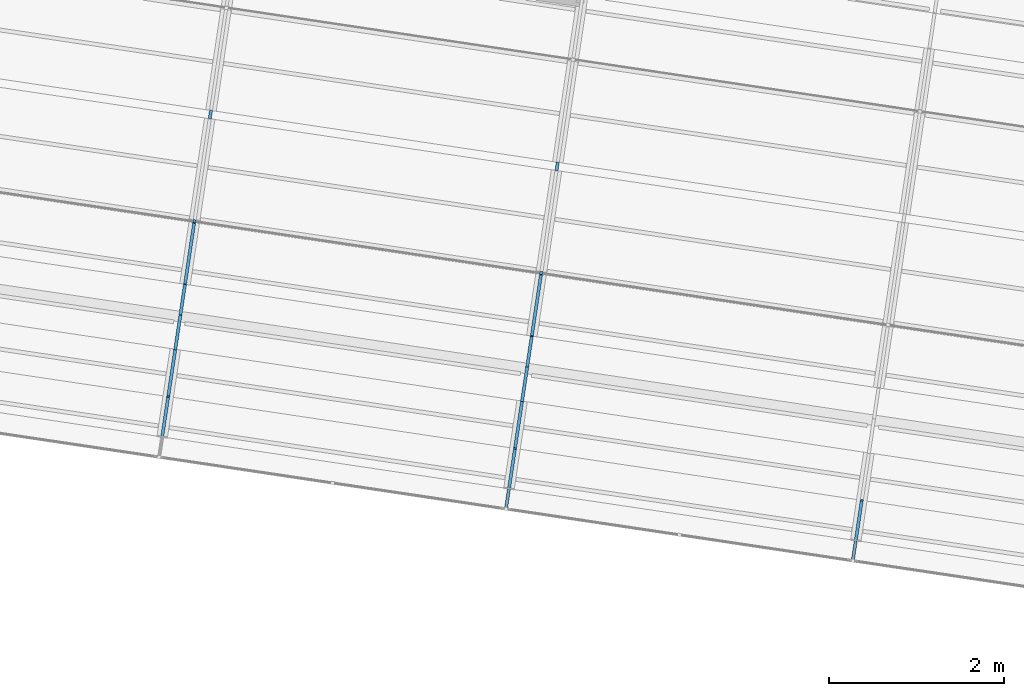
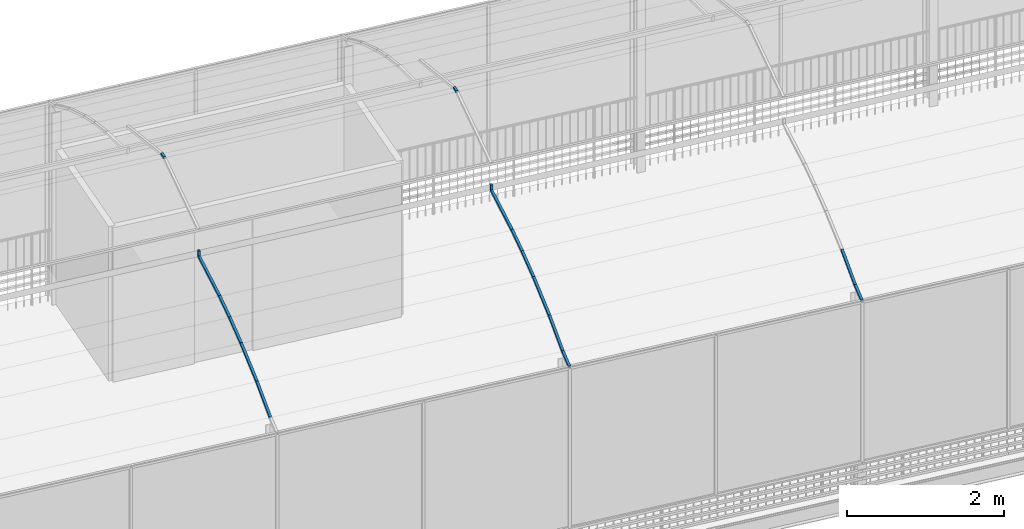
# One storey, part 19 of 34: 17 members, 1 element without a shape of its own.
"""IFC4 building model written with IfcOpenShell, lengths in metres."""

from ifc_helpers import new_model, si_unit, direction, frame, origin_with_axes, place, context, subcontext, project, spatial, rectangle, extrude, material, material_profile, profile_set, profile_usage, type_object, element, aggregate, save


model = new_model("IFC4")

# Units and contexts
model_context = context("Model", 3, precision=1e-05, world=origin_with_axes(), true_north=direction((0.0, 1.0)))
body_context = subcontext(model_context, "Body", "Model", "MODEL_VIEW")
ifc_project = project(units=[si_unit("AREAUNIT", "SQUARE_METRE"), si_unit("VOLUMEUNIT", "CUBIC_METRE"), si_unit("LENGTHUNIT", "METRE")], contexts=[model_context])

# Site, building, storey
site_placement = place(None, origin_with_axes())
site = spatial("IfcSite", under=ifc_project, at=site_placement, Name="Lares · Rua das Mercês · artigo 4771")
building_placement = place(site_placement, frame((15.0, 9.7, 14.65), z_axis=(0.0, 0.0, 1.0), x_axis=(0.989015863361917, -0.147809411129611, 0.0)))
building = spatial("IfcBuilding", under=site, at=building_placement, Name="Casa Sobreposta")
storey_placement = place(building_placement, frame((0.0, 0.0, 3.24), z_axis=(0.0, 0.0, 1.0), x_axis=(1.0, 0.0, 0.0)))
storey = spatial("IfcBuildingStorey", under=building, at=storey_placement, Name="01 · Jardim de inverno", Elevation=17.89)

# Roof, members
ifc_material_1 = material(Name="Vidro / Normalglas", Category="glass")
roof_placement = place(storey_placement, frame((0.0, 0.0, -3.24), z_axis=(0.0, 0.0, 1.0), x_axis=(1.0, 0.0, 0.0)))
roof = element("IfcRoof", 1, at=roof_placement, inside=storey, material=ifc_material_1, Name="Cobertura translúcida da estufa", PredefinedType="BARREL_ROOF")
ifc_material_2 = material(Name="Aço pintado / Stahl lackiert", Category="steel")
ifc_material_profile = material_profile(ifc_material_2, rectangle(XDim=0.035, YDim=0.035))
ifc_profile_set = profile_set([ifc_material_profile], Name="R0.035")
ifc_profile_usage_1 = profile_usage(ifc_profile_set)
member_type = type_object("IfcMemberType", Name="R0.035 / steel", PredefinedType="NOTDEFINED", material=ifc_profile_set)
member_1_placement = place(roof_placement, frame((12.0, -1.5, 6.23430000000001), z_axis=(0.0, 0.932991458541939, 0.35989851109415), x_axis=(1.0, 0.0, 0.0)))
member_1 = element("IfcMember", 2, at=member_1_placement, type_object=member_type, material=ifc_profile_usage_1, Name="Arco estufa 12/0", context=body_context, shape_type="SweptSolid", body=[
    extrude(rectangle(XDim=0.035, YDim=0.035), origin_with_axes(), (0.0, 0.0, 1.0), 0.249032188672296),
])
ifc_profile_usage_2 = profile_usage(ifc_profile_set)
member_2_placement = place(roof_placement, frame((16.0, -1.5, 6.23430000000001), z_axis=(0.0, 0.932991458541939, 0.35989851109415), x_axis=(1.0, 0.0, 0.0)))
member_2 = element("IfcMember", 3, at=member_2_placement, type_object=member_type, material=ifc_profile_usage_2, Name="Arco estufa 16/0", context=body_context, shape_type="SweptSolid", body=[
    extrude(rectangle(XDim=0.035, YDim=0.035), origin_with_axes(), (0.0, 0.0, 1.0), 0.249032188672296),
])
ifc_profile_usage_3 = profile_usage(ifc_profile_set)
member_3_placement = place(roof_placement, frame((8.0, -1.26765509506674, 6.32392631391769), z_axis=(0.0, 0.878851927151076, 0.477094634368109), x_axis=(1.0, 0.0, 0.0)))
member_3 = element("IfcMember", 4, at=member_3_placement, type_object=member_type, material=ifc_profile_usage_3, Name="Arco estufa 8/1", context=body_context, shape_type="SweptSolid", body=[
    extrude(rectangle(XDim=0.035, YDim=0.035), origin_with_axes(), (0.0, 0.0, 1.0), 0.52863528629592),
])
ifc_profile_usage_4 = profile_usage(ifc_profile_set)
member_4_placement = place(roof_placement, frame((12.0, -1.26765509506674, 6.32392631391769), z_axis=(0.0, 0.878851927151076, 0.477094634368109), x_axis=(1.0, 0.0, 0.0)))
member_4 = element("IfcMember", 5, at=member_4_placement, type_object=member_type, material=ifc_profile_usage_4, Name="Arco estufa 12/1", context=body_context, shape_type="SweptSolid", body=[
    extrude(rectangle(XDim=0.035, YDim=0.035), origin_with_axes(), (0.0, 0.0, 1.0), 0.52863528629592),
])
ifc_profile_usage_5 = profile_usage(ifc_profile_set)
member_5_placement = place(roof_placement, frame((16.0, -1.26765509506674, 6.32392631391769), z_axis=(0.0, 0.878851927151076, 0.477094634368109), x_axis=(1.0, 0.0, 0.0)))
member_5 = element("IfcMember", 6, at=member_5_placement, type_object=member_type, material=ifc_profile_usage_5, Name="Arco estufa 16/1", context=body_context, shape_type="SweptSolid", body=[
    extrude(rectangle(XDim=0.035, YDim=0.035), origin_with_axes(), (0.0, 0.0, 1.0), 0.52863528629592),
])
ifc_profile_usage_6 = profile_usage(ifc_profile_set)
member_6_placement = place(roof_placement, frame((8.0, -0.803062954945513, 6.57613537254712), z_axis=(0.0, 0.915885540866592, 0.401439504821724), x_axis=(1.0, 0.0, 0.0)))
member_6 = element("IfcMember", 7, at=member_6_placement, type_object=member_type, material=ifc_profile_usage_6, Name="Arco estufa 8/2", context=body_context, shape_type="SweptSolid", body=[
    extrude(rectangle(XDim=0.035, YDim=0.035), origin_with_axes(), (0.0, 0.0, 1.0), 0.596771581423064),
])
ifc_profile_usage_7 = profile_usage(ifc_profile_set)
member_7_placement = place(roof_placement, frame((12.0, -0.803062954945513, 6.57613537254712), z_axis=(0.0, 0.915885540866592, 0.401439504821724), x_axis=(1.0, 0.0, 0.0)))
member_7 = element("IfcMember", 8, at=member_7_placement, type_object=member_type, material=ifc_profile_usage_7, Name="Arco estufa 12/2", context=body_context, shape_type="SweptSolid", body=[
    extrude(rectangle(XDim=0.035, YDim=0.035), origin_with_axes(), (0.0, 0.0, 1.0), 0.596771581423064),
])
ifc_profile_usage_8 = profile_usage(ifc_profile_set)
member_8_placement = place(roof_placement, frame((8.0, -0.256488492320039, 6.81570306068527), z_axis=(0.0, 0.942820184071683, 0.333301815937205), x_axis=(1.0, 0.0, 0.0)))
member_8 = element("IfcMember", 9, at=member_8_placement, type_object=member_type, material=ifc_profile_usage_8, Name="Arco estufa 8/3", context=body_context, shape_type="SweptSolid", body=[
    extrude(rectangle(XDim=0.035, YDim=0.035), origin_with_axes(), (0.0, 0.0, 1.0), 0.423025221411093),
])
ifc_profile_usage_9 = profile_usage(ifc_profile_set)
member_9_placement = place(roof_placement, frame((12.0, -0.256488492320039, 6.81570306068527), z_axis=(0.0, 0.942820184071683, 0.333301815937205), x_axis=(1.0, 0.0, 0.0)))
member_9 = element("IfcMember", 10, at=member_9_placement, type_object=member_type, material=ifc_profile_usage_9, Name="Arco estufa 12/3", context=body_context, shape_type="SweptSolid", body=[
    extrude(rectangle(XDim=0.035, YDim=0.035), origin_with_axes(), (0.0, 0.0, 1.0), 0.423025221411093),
])
ifc_profile_usage_10 = profile_usage(ifc_profile_set)
member_10_placement = place(roof_placement, frame((8.0, 0.142348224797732, 6.95669813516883), z_axis=(0.0, 0.959692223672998, 0.281053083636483), x_axis=(1.0, 0.0, 0.0)))
member_10 = element("IfcMember", 11, at=member_10_placement, type_object=member_type, material=ifc_profile_usage_10, Name="Arco estufa 8/4", context=body_context, shape_type="SweptSolid", body=[
    extrude(rectangle(XDim=0.035, YDim=0.035), origin_with_axes(), (0.0, 0.0, 1.0), 0.365557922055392),
])
ifc_profile_usage_11 = profile_usage(ifc_profile_set)
member_11_placement = place(roof_placement, frame((12.0, 0.142348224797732, 6.95669813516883), z_axis=(0.0, 0.959692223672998, 0.281053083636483), x_axis=(1.0, 0.0, 0.0)))
member_11 = element("IfcMember", 12, at=member_11_placement, type_object=member_type, material=ifc_profile_usage_11, Name="Arco estufa 12/4", context=body_context, shape_type="SweptSolid", body=[
    extrude(rectangle(XDim=0.035, YDim=0.035), origin_with_axes(), (0.0, 0.0, 1.0), 0.365557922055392),
])
ifc_profile_usage_12 = profile_usage(ifc_profile_set)
member_12_placement = place(roof_placement, frame((8.0, 0.493171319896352, 7.05943931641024), z_axis=(0.0, 0.977995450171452, 0.208626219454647), x_axis=(1.0, 0.0, 0.0)))
member_12 = element("IfcMember", 13, at=member_12_placement, type_object=member_type, material=ifc_profile_usage_12, Name="Arco estufa 8/5", context=body_context, shape_type="SweptSolid", body=[
    extrude(rectangle(XDim=0.035, YDim=0.035), origin_with_axes(), (0.0, 0.0, 1.0), 0.737465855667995),
])
ifc_profile_usage_13 = profile_usage(ifc_profile_set)
member_13_placement = place(roof_placement, frame((12.0, 0.493171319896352, 7.05943931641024), z_axis=(0.0, 0.977995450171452, 0.208626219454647), x_axis=(1.0, 0.0, 0.0)))
member_13 = element("IfcMember", 14, at=member_13_placement, type_object=member_type, material=ifc_profile_usage_13, Name="Arco estufa 12/5", context=body_context, shape_type="SweptSolid", body=[
    extrude(rectangle(XDim=0.035, YDim=0.035), origin_with_axes(), (0.0, 0.0, 1.0), 0.737465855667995),
])
ifc_profile_usage_14 = profile_usage(ifc_profile_set)
member_14_placement = place(roof_placement, frame((8.0, 1.21440957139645, 7.21329402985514), z_axis=(0.0, 0.0686229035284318, 0.997642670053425), x_axis=(1.0, 0.0, 0.0)))
member_14 = element("IfcMember", 15, at=member_14_placement, type_object=member_type, material=ifc_profile_usage_14, Name="Arco estufa 8/6", context=body_context, shape_type="SweptSolid", body=[
    extrude(rectangle(XDim=0.035, YDim=0.035), origin_with_axes(), (0.0, 0.0, 1.0), 0.0875893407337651),
])
ifc_profile_usage_15 = profile_usage(ifc_profile_set)
member_15_placement = place(roof_placement, frame((12.0, 1.21440957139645, 7.21329402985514), z_axis=(0.0, 0.0686229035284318, 0.997642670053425), x_axis=(1.0, 0.0, 0.0)))
member_15 = element("IfcMember", 16, at=member_15_placement, type_object=member_type, material=ifc_profile_usage_15, Name="Arco estufa 12/6", context=body_context, shape_type="SweptSolid", body=[
    extrude(rectangle(XDim=0.035, YDim=0.035), origin_with_axes(), (0.0, 0.0, 1.0), 0.0875893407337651),
])
ifc_profile_usage_16 = profile_usage(ifc_profile_set)
member_16_placement = place(roof_placement, frame((8.0, 2.40274082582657, 7.96518238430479), z_axis=(0.0, 1.0, 0.0), x_axis=(1.0, 0.0, 0.0)))
member_16 = element("IfcMember", 17, at=member_16_placement, type_object=member_type, material=ifc_profile_usage_16, Name="Arco estufa 8/8", context=body_context, shape_type="SweptSolid", body=[
    extrude(rectangle(XDim=0.035, YDim=0.035), origin_with_axes(), (0.0, 0.0, 1.0), 0.0949594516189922),
])
ifc_profile_usage_17 = profile_usage(ifc_profile_set)
member_17_placement = place(roof_placement, frame((12.0, 2.40274082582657, 7.96518238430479), z_axis=(0.0, 1.0, 0.0), x_axis=(1.0, 0.0, 0.0)))
member_17 = element("IfcMember", 18, at=member_17_placement, type_object=member_type, material=ifc_profile_usage_17, Name="Arco estufa 12/8", context=body_context, shape_type="SweptSolid", body=[
    extrude(rectangle(XDim=0.035, YDim=0.035), origin_with_axes(), (0.0, 0.0, 1.0), 0.0949594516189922),
])
aggregate(roof, [member_1, member_2, member_3, member_4, member_5, member_6, member_7, member_8, member_9, member_10, member_11, member_12, member_13, member_14, member_15, member_16, member_17])

save(model, "model.ifc")
